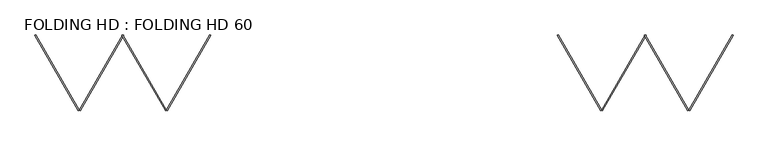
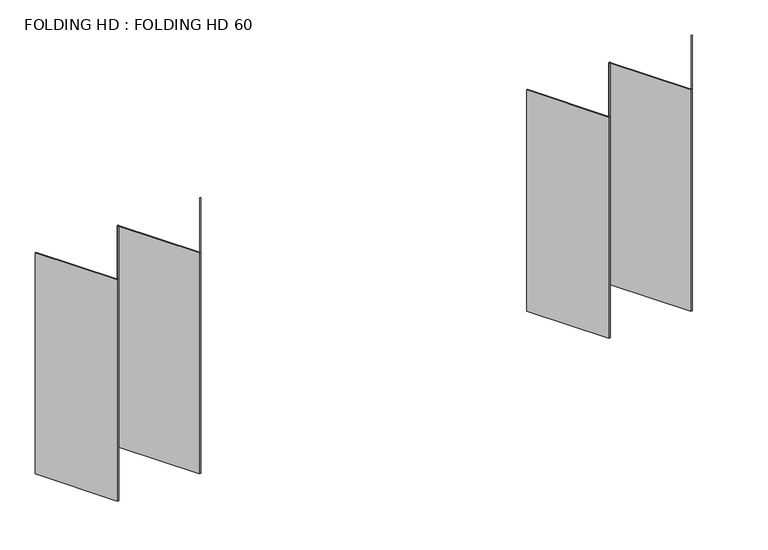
"""IFC4 building model written with IfcOpenShell, lengths in millimetres: plate geometry, FOLDING HD : FOLDING HD 60."""

from ifc_helpers import new_model, si_unit, origin, origin_with_axes, place, context, project, spatial, polyline, outline, extrude, source, transform, mapped, element, save


def folding_hd_folding_hd_60_f14e086e(model_context):
    return source(origin(), model_context, "Body", "SweptSolid", [
        extrude(outline(polyline([(3150.0, -779.4228635), (3141.339746, -784.4228635), (2691.339746, -5.0), (2700.0000001, 0.0), (3150.0, -779.4228635)])), origin_with_axes(), (0.0, 0.0, 1.0), 2570.0),
        extrude(outline(polyline([(3150.0, -779.4228634), (3600.0, 0.0), (3608.660254, -5.0), (3158.660254, -784.4228634), (3150.0, -779.4228634)])), origin_with_axes(), (0.0, 0.0, 1.0), 2570.0),
        extrude(outline(polyline([(2250.0, -779.4228634), (2700.0, 0.0), (2708.660254, -5.0), (2258.660254, -784.4228634), (2250.0, -779.4228634)])), origin_with_axes(), (0.0, 0.0, 1.0), 2570.0),
        extrude(outline(polyline([(2250.0, -779.4228634), (2241.339746, -784.4228634), (1791.339746, -5.0), (1800.0, 0.0), (2250.0, -779.4228634)])), origin_with_axes(), (0.0, 0.0, 1.0), 2570.0),
        extrude(outline(polyline([(-2250.0, -779.4228634), (-2258.660254, -784.4228634), (-2708.660254, -5.0), (-2700.0, 0.0), (-2250.0, -779.4228634)])), origin_with_axes(), (0.0, 0.0, 1.0), 2570.0),
        extrude(outline(polyline([(-2250.0, -779.4228634), (-1800.0, 0.0), (-1791.339746, -5.0), (-2241.339746, -784.4228634), (-2250.0, -779.4228634)])), origin_with_axes(), (0.0, 0.0, 1.0), 2570.0),
        extrude(outline(polyline([(-3150.0, -779.4228634), (-2700.0, 0.0), (-2691.339746, -5.0), (-3141.339746, -784.4228634), (-3150.0, -779.4228634)])), origin_with_axes(), (0.0, 0.0, 1.0), 2570.0),
        extrude(outline(polyline([(-3150.0, -779.4228634), (-3158.660254, -784.4228634), (-3608.660254, -5.0), (-3600.0, 0.0), (-3150.0, -779.4228634)])), origin_with_axes(), (0.0, 0.0, 1.0), 2570.0),
    ])


if __name__ == "__main__":
    model = new_model("IFC4")
    model_context = context("Model", 3, world=origin())
    ifc_project = project(units=[si_unit("LENGTHUNIT", "METRE", prefix="MILLI")], contexts=[model_context])
    site = spatial("IfcSite", under=ifc_project)
    building = spatial("IfcBuilding", under=site)
    placement = place(None, origin())
    folding_hd_folding_hd_60_shape = folding_hd_folding_hd_60_f14e086e(model_context)
    element("IfcPlate", 1, ObjectType="FOLDING HD : FOLDING HD 60", at=placement, inside=building, context=model_context, shape_type="MappedRepresentation", body=[
        mapped(folding_hd_folding_hd_60_shape, transform((0.0, 0.0, 0.0), x_axis=(1.0, 0.0, 0.0), y_axis=(0.0, 1.0, 0.0), z_axis=(0.0, 0.0, 1.0))),
    ])
    save(model, "model.ifc")
